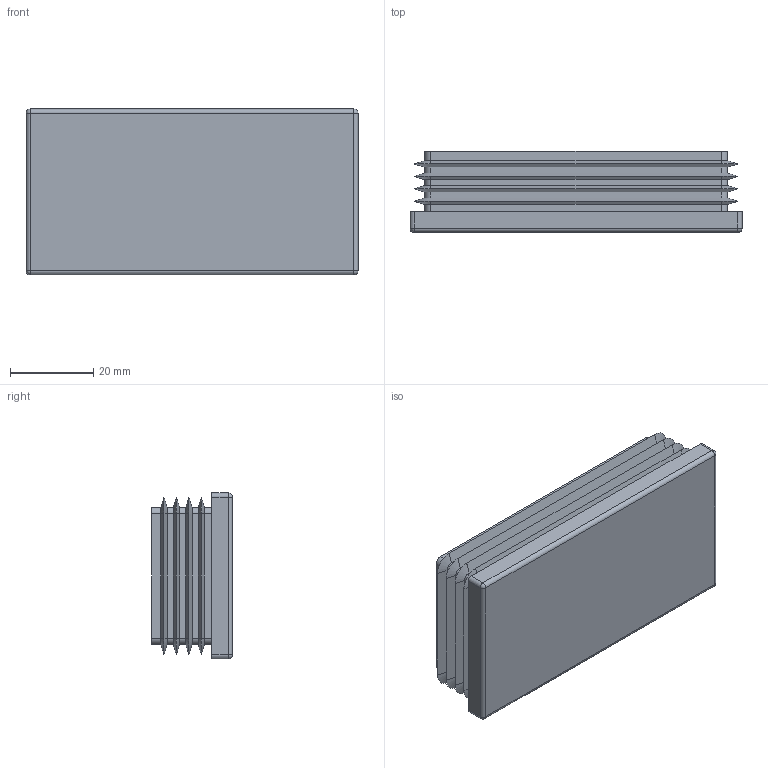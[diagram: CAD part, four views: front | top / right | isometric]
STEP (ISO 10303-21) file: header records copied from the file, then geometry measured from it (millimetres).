
FILE_DESCRIPTION(/* description */ ('END CAP FOR TUBE 500-1020'),/* implementation_level */ '2;1');
FILE_NAME(/* name */ '500-2020.stp',/* time_stamp */ '2022-09-16T10:16:08+02:00',/* author */ ('MD'),/* organization */ ('CARRYLINE'),/* preprocessor_version */ 'ST-DEVELOPER v19.2',/* originating_system */ 'Autodesk Inventor 2023',/* authorisation */ '');
FILE_SCHEMA (('AUTOMOTIVE_DESIGN { 1 0 10303 214 3 1 1 }'));
Length unit declared in the file: millimetre
Products named in the file (1): 500-2020
Bounding box: 80 x 19.5 x 40 mm (x, y, z)
Volume: 21170.6 mm3; surface area: 17558.5 mm2
Topology: 1 solids, 1 shells, 132 faces, 280 edges, 148 vertices
Faces by surface type: plane 68, cone 32, cylinder 28, sphere 4
Entity records: 3411 total; most frequent: DIRECTION 614, CARTESIAN_POINT 557, ORIENTED_EDGE 552, EDGE_CURVE 276, AXIS2_PLACEMENT_3D 205, LINE 204, VECTOR 204, VERTEX_POINT 148
